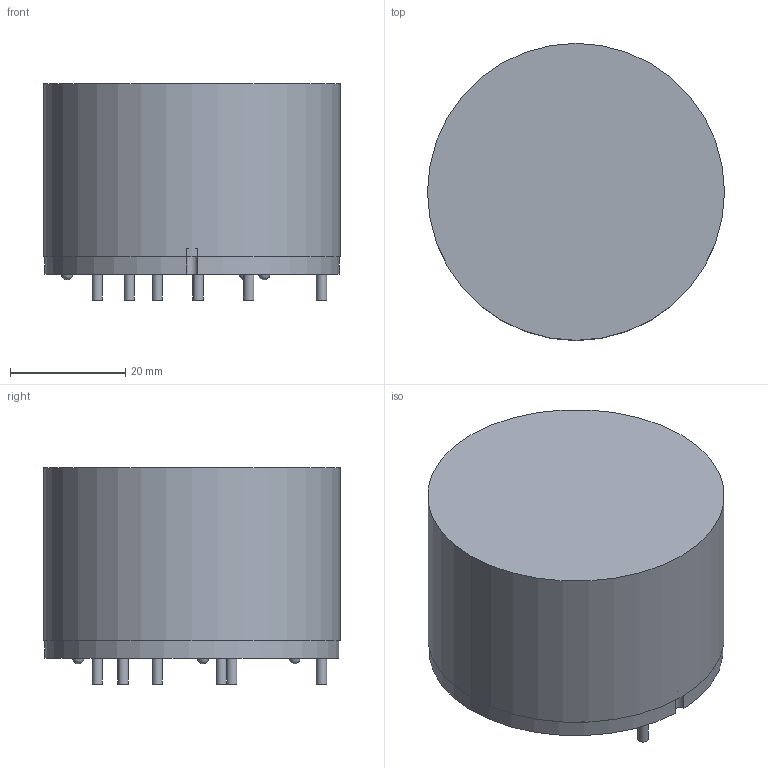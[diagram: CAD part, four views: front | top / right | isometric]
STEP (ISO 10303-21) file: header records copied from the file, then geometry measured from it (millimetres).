
FILE_DESCRIPTION(/* description */ (''),/* implementation_level */ '2;1');
FILE_NAME(/* name */ 'F:\Done\2016\多产品3D模拟\\X2\4FEE653994885F84\X0\\6123-X317\6123-X317 3D Model.stp',/* time_stamp */ '2016-07-08T13:28:26+08:00',/* author */ ('CN000562'),/* organization */ (''),/* preprocessor_version */ 'ST-DEVELOPER v16.5',/* originating_system */ 'Autodesk Inventor 2017',/* authorisation */ '');
FILE_SCHEMA (('AUTOMOTIVE_DESIGN { 1 0 10303 214 3 1 1 }'));
Length unit declared in the file: millimetre
Products named in the file (1): 6123-X316
Bounding box: 51.5 x 51.5 x 37.5 mm (x, y, z)
Volume: 68688.6 mm3; surface area: 9673.6 mm2
Topology: 1 solids, 1 shells, 23 faces, 43 edges, 29 vertices
Faces by surface type: cylinder 10, plane 10, sphere 3
Full cylindrical faces by diameter (mm): 1.8 x6, 51.5 x1
Entity records: 514 total; most frequent: DIRECTION 98, CARTESIAN_POINT 74, ORIENTED_EDGE 54, AXIS2_PLACEMENT_3D 47, EDGE_LOOP 40, EDGE_CURVE 27, FACE_OUTER_BOUND 23, CIRCLE 23
